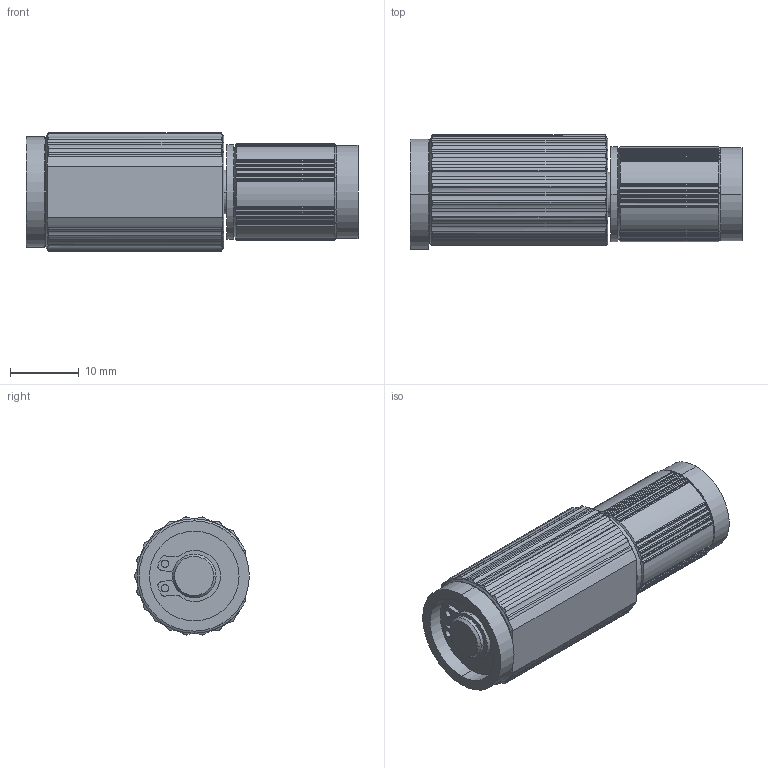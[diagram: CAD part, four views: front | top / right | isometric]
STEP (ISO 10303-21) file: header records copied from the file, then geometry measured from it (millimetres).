
FILE_DESCRIPTION (( 'STEP AP214' ), '1' );
FILE_NAME ('TI-340-X.XX-03 CW ONE WAY.STEP', '2015-06-01T18:05:02', ( 'User' ), ( '' ), 'SwSTEP 2.0', 'SolidWorks 2015', '' );
FILE_SCHEMA (( 'AUTOMOTIVE_DESIGN' ));
Length unit declared in the file: millimetre
Products named in the file (1): TI-340-X.XX-03 CW ONE WAY
Bounding box: 48.16 x 16.64 x 17.13 mm (x, y, z)
Volume: 8574.1 mm3; surface area: 4452.3 mm2
Topology: 1 solids, 10 shells, 421 faces, 1133 edges, 744 vertices
Faces by surface type: cylinder 306, plane 81, cone 22, torus 12
Entity records: 14604 total; most frequent: CARTESIAN_POINT 4545, ORIENTED_EDGE 2266, DIRECTION 1856, EDGE_CURVE 1133, VERTEX_POINT 744, AXIS2_PLACEMENT_3D 701, VECTOR 454, LINE 454
